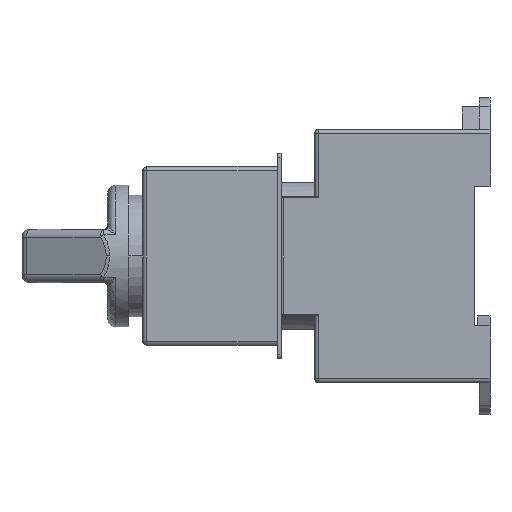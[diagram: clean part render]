
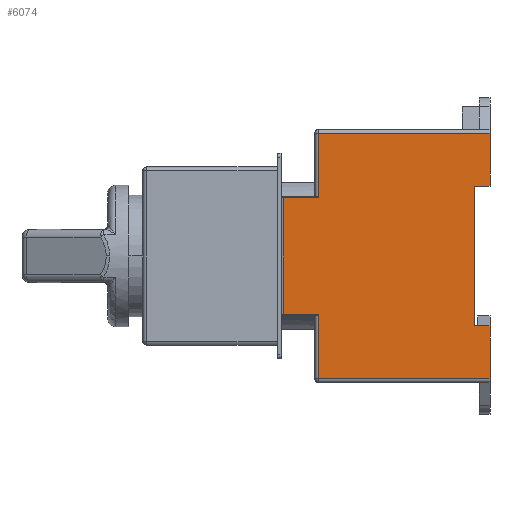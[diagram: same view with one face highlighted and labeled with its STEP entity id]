
A CAD part, left-side view. The second image highlights one B-rep face of the part: STEP entity #6074.
In plain terms, the highlighted planar face has unit normal (-1, 0, 0).
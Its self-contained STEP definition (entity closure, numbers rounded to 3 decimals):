
#1 = CARTESIAN_POINT ( 'NONE',  ( -24., 43.3, -32. ) ) ;
#201 = AXIS2_PLACEMENT_3D ( 'NONE', #5414, #3886, #9196 ) ;
#214 = LINE ( 'NONE', #8156, #6354 ) ;
#245 = CARTESIAN_POINT ( 'NONE',  ( -24., 4., -17.65 ) ) ;
#389 = CARTESIAN_POINT ( 'NONE',  ( -24., 4., 17.65 ) ) ;
#405 = LINE ( 'NONE', #8319, #1964 ) ;
#484 = DIRECTION ( 'NONE',  ( 0., 1., 0. ) ) ;
#505 = VERTEX_POINT ( 'NONE', #389 ) ;
#547 = CARTESIAN_POINT ( 'NONE',  ( -24., 0., 17.65 ) ) ;
#611 = LINE ( 'NONE', #3544, #3005 ) ;
#700 = EDGE_CURVE ( 'NONE', #5649, #8839, #214, .T. ) ;
#775 = DIRECTION ( 'NONE',  ( 0., 0., -1. ) ) ;
#951 = VECTOR ( 'NONE', #484, 1000. ) ;
#992 = EDGE_CURVE ( 'NONE', #8839, #4200, #5764, .T. ) ;
#1013 = ORIENTED_EDGE ( 'NONE', *, *, #5480, .T. ) ;
#1290 = ORIENTED_EDGE ( 'NONE', *, *, #1856, .F. ) ;
#1405 = VERTEX_POINT ( 'NONE', #4119 ) ;
#1721 = CARTESIAN_POINT ( 'NONE',  ( -24., 44.3, 31. ) ) ;
#1745 = EDGE_CURVE ( 'NONE', #5935, #4878, #6890, .T. ) ;
#1856 = EDGE_CURVE ( 'NONE', #505, #5074, #3533, .T. ) ;
#1964 = VECTOR ( 'NONE', #6100, 1000. ) ;
#2381 = VECTOR ( 'NONE', #7886, 1000. ) ;
#2491 = DIRECTION ( 'NONE',  ( 0., 1., 0. ) ) ;
#2831 = ORIENTED_EDGE ( 'NONE', *, *, #3422, .F. ) ;
#2955 = EDGE_CURVE ( 'NONE', #9401, #5935, #4214, .T. ) ;
#2999 = LINE ( 'NONE', #7083, #8598 ) ;
#3005 = VECTOR ( 'NONE', #8864, 1000. ) ;
#3122 = PLANE ( 'NONE',  #201 ) ;
#3140 = VECTOR ( 'NONE', #5574, 1000. ) ;
#3330 = DIRECTION ( 'NONE',  ( 0., 0., -1. ) ) ;
#3367 = VECTOR ( 'NONE', #8491, 1000. ) ;
#3399 = CARTESIAN_POINT ( 'NONE',  ( -24., 43.3, 15. ) ) ;
#3422 = EDGE_CURVE ( 'NONE', #1405, #7705, #9516, .T. ) ;
#3504 = EDGE_CURVE ( 'NONE', #5286, #505, #2999, .T. ) ;
#3523 = DIRECTION ( 'NONE',  ( 0., 0., -1. ) ) ;
#3533 = LINE ( 'NONE', #8054, #2381 ) ;
#3544 = CARTESIAN_POINT ( 'NONE',  ( -24., 0., -32. ) ) ;
#3752 = CARTESIAN_POINT ( 'NONE',  ( -24., 0., 31. ) ) ;
#3798 = ORIENTED_EDGE ( 'NONE', *, *, #4144, .F. ) ;
#3858 = VECTOR ( 'NONE', #775, 1000. ) ;
#3886 = DIRECTION ( 'NONE',  ( 1., 0., 0. ) ) ;
#4119 = CARTESIAN_POINT ( 'NONE',  ( -24., 0., -17.65 ) ) ;
#4144 = EDGE_CURVE ( 'NONE', #5074, #1405, #4828, .T. ) ;
#4191 = CARTESIAN_POINT ( 'NONE',  ( -24., 52.3, -14.75 ) ) ;
#4200 = VERTEX_POINT ( 'NONE', #8941 ) ;
#4214 = LINE ( 'NONE', #1721, #9166 ) ;
#4289 = CARTESIAN_POINT ( 'NONE',  ( -24., 0., -31. ) ) ;
#4318 = CARTESIAN_POINT ( 'NONE',  ( -24., 44.3, 14.75 ) ) ;
#4505 = CARTESIAN_POINT ( 'NONE',  ( -24., 43.3, 31. ) ) ;
#4658 = EDGE_CURVE ( 'NONE', #9401, #5286, #611, .T. ) ;
#4828 = LINE ( 'NONE', #5886, #6282 ) ;
#4830 = CARTESIAN_POINT ( 'NONE',  ( -24., 43.3, 14.75 ) ) ;
#4878 = VERTEX_POINT ( 'NONE', #4830 ) ;
#4931 = ORIENTED_EDGE ( 'NONE', *, *, #4658, .F. ) ;
#4955 = LINE ( 'NONE', #1, #3858 ) ;
#5074 = VERTEX_POINT ( 'NONE', #245 ) ;
#5242 = EDGE_CURVE ( 'NONE', #4878, #5649, #9763, .T. ) ;
#5265 = ORIENTED_EDGE ( 'NONE', *, *, #992, .T. ) ;
#5286 = VERTEX_POINT ( 'NONE', #547 ) ;
#5414 = CARTESIAN_POINT ( 'NONE',  ( -24., 44.3, -32. ) ) ;
#5453 = VECTOR ( 'NONE', #3330, 1000. ) ;
#5480 = EDGE_CURVE ( 'NONE', #4200, #9465, #4955, .T. ) ;
#5574 = DIRECTION ( 'NONE',  ( 0., -1., 0. ) ) ;
#5649 = VERTEX_POINT ( 'NONE', #5655 ) ;
#5655 = CARTESIAN_POINT ( 'NONE',  ( -24., 52.3, 14.75 ) ) ;
#5764 = LINE ( 'NONE', #8240, #3140 ) ;
#5827 = ORIENTED_EDGE ( 'NONE', *, *, #3504, .F. ) ;
#5886 = CARTESIAN_POINT ( 'NONE',  ( -24., 44.3, -17.65 ) ) ;
#5935 = VERTEX_POINT ( 'NONE', #4505 ) ;
#6074 = ADVANCED_FACE ( 'NONE', ( #8580 ), #3122, .F. ) ;
#6100 = DIRECTION ( 'NONE',  ( 0., -1., 0. ) ) ;
#6282 = VECTOR ( 'NONE', #8055, 1000. ) ;
#6354 = VECTOR ( 'NONE', #3523, 1000. ) ;
#6798 = ORIENTED_EDGE ( 'NONE', *, *, #1745, .T. ) ;
#6890 = LINE ( 'NONE', #3399, #5453 ) ;
#7083 = CARTESIAN_POINT ( 'NONE',  ( -24., 44.3, 17.65 ) ) ;
#7095 = DIRECTION ( 'NONE',  ( 0., 1., 0. ) ) ;
#7301 = ORIENTED_EDGE ( 'NONE', *, *, #7496, .T. ) ;
#7406 = ORIENTED_EDGE ( 'NONE', *, *, #5242, .T. ) ;
#7496 = EDGE_CURVE ( 'NONE', #9465, #7705, #405, .T. ) ;
#7705 = VERTEX_POINT ( 'NONE', #4289 ) ;
#7724 = CARTESIAN_POINT ( 'NONE',  ( -24., 0., -32. ) ) ;
#7762 = EDGE_LOOP ( 'NONE', ( #7406, #8174, #5265, #1013, #7301, #2831, #3798, #1290, #5827, #4931, #9426, #6798 ) ) ;
#7886 = DIRECTION ( 'NONE',  ( 0., 0., -1. ) ) ;
#8054 = CARTESIAN_POINT ( 'NONE',  ( -24., 4., -32. ) ) ;
#8055 = DIRECTION ( 'NONE',  ( 0., -1., 0. ) ) ;
#8156 = CARTESIAN_POINT ( 'NONE',  ( -24., 52.3, -14.75 ) ) ;
#8174 = ORIENTED_EDGE ( 'NONE', *, *, #700, .T. ) ;
#8240 = CARTESIAN_POINT ( 'NONE',  ( -24., 44.3, -14.75 ) ) ;
#8319 = CARTESIAN_POINT ( 'NONE',  ( -24., 44.3, -31. ) ) ;
#8491 = DIRECTION ( 'NONE',  ( 0., 0., -1. ) ) ;
#8580 = FACE_OUTER_BOUND ( 'NONE', #7762, .T. ) ;
#8598 = VECTOR ( 'NONE', #2491, 1000. ) ;
#8839 = VERTEX_POINT ( 'NONE', #4191 ) ;
#8864 = DIRECTION ( 'NONE',  ( 0., 0., -1. ) ) ;
#8941 = CARTESIAN_POINT ( 'NONE',  ( -24., 43.3, -14.75 ) ) ;
#9158 = CARTESIAN_POINT ( 'NONE',  ( -24., 43.3, -31. ) ) ;
#9166 = VECTOR ( 'NONE', #7095, 1000. ) ;
#9196 = DIRECTION ( 'NONE',  ( 0., 0., -1. ) ) ;
#9401 = VERTEX_POINT ( 'NONE', #3752 ) ;
#9426 = ORIENTED_EDGE ( 'NONE', *, *, #2955, .T. ) ;
#9465 = VERTEX_POINT ( 'NONE', #9158 ) ;
#9516 = LINE ( 'NONE', #7724, #3367 ) ;
#9763 = LINE ( 'NONE', #4318, #951 ) ;
